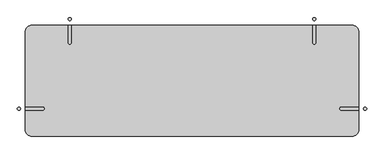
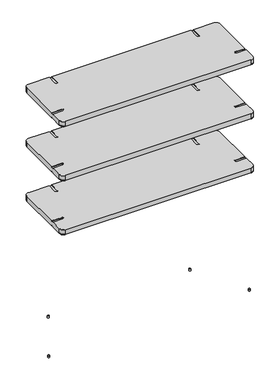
"""IFC4 building model written with IfcOpenShell, lengths in millimetres: furniture geometry, Shelving unit_Friendly : Shelving unit_Friendly."""

from ifc_helpers import new_model, si_unit, point, frame, frame_2d, origin, origin_with_axes, place, context, project, spatial, polyline, circle_curve, trimmed, segment, composite_curve, outline, extrude, source, transform, mapped, element, save
from ifc_brep_helpers import plane_surface, cylinder_surface, revolved_surface, advanced_brep


def furniture_c25ba4bb(model_context):
    return source(origin(), model_context, "Body", "SolidModel", [
        extrude(outline(composite_curve([segment(trimmed(circle_curve(frame_2d((-622.5, -330.0)), 5.5), [point((-628.0, -330.0))], [point((-617.0, -330.0))], False, "CARTESIAN"), True, "CONTINUOUS"), segment(trimmed(circle_curve(frame_2d((-622.5, -330.0)), 5.5), [point((-617.0, -330.0))], [point((-628.0, -330.0))], False, "CARTESIAN"), True, "CONTINUOUS")], self_intersect=False)), origin_with_axes(), (0.0, 0.0, 1.0), 10.0),
        extrude(outline(composite_curve([segment(trimmed(circle_curve(frame_2d((-440.0, -7.5)), 5.5), [point((-445.5, -7.5))], [point((-434.5, -7.5))], False, "CARTESIAN"), True, "CONTINUOUS"), segment(trimmed(circle_curve(frame_2d((-440.0, -7.5)), 5.5), [point((-434.5, -7.5))], [point((-445.5, -7.5))], False, "CARTESIAN"), True, "CONTINUOUS")], self_intersect=False)), origin_with_axes(), (0.0, 0.0, 1.0), 10.0),
        extrude(outline(composite_curve([segment(trimmed(circle_curve(frame_2d((440.0, -7.5)), 5.5), [point((434.5, -7.5))], [point((445.5, -7.5))], False, "CARTESIAN"), True, "CONTINUOUS"), segment(trimmed(circle_curve(frame_2d((440.0, -7.5)), 5.5), [point((445.5, -7.5))], [point((434.5, -7.5))], False, "CARTESIAN"), True, "CONTINUOUS")], self_intersect=False)), origin_with_axes(), (0.0, 0.0, 1.0), 10.0),
        extrude(outline(composite_curve([segment(trimmed(circle_curve(frame_2d((622.5, -330.0)), 5.5), [point((617.0, -330.0))], [point((628.0, -330.0))], False, "CARTESIAN"), True, "CONTINUOUS"), segment(trimmed(circle_curve(frame_2d((622.5, -330.0)), 5.5), [point((628.0, -330.0))], [point((617.0, -330.0))], False, "CARTESIAN"), True, "CONTINUOUS")], self_intersect=False)), origin_with_axes(), (0.0, 0.0, 1.0), 10.0),
        advanced_brep(
        [(-575.0, -430.0, 1557.0), (-600.0, -405.0, 1557.0), (-600.0, -337.5, 1557.0), (-537.5, -337.5, 1557.0), (-537.5, -322.5, 1557.0), (-600.0, -322.5, 1557.0), (-600.0, -55.0, 1557.0), (-575.0, -30.0, 1557.0), (-447.5, -30.0, 1557.0), (-447.5, -92.5, 1557.0), (-432.5, -92.5, 1557.0), (-432.5, -30.0, 1557.0), (432.5, -30.0, 1557.0), (432.5, -92.5, 1557.0), (447.5, -92.5, 1557.0), (447.5, -30.0, 1557.0), (575.0, -30.0, 1557.0), (600.0, -55.0, 1557.0), (600.0, -322.5, 1557.0), (537.5, -322.5, 1557.0), (537.5, -337.5, 1557.0), (600.0, -337.5, 1557.0), (600.0, -405.0, 1557.0), (575.0, -430.0, 1557.0), (575.0, -430.0, 1560.0), (575.0, -430.0, 1586.0), (575.0, -430.0, 1589.0), (-575.0, -430.0, 1589.0), (-575.0, -430.0, 1586.0), (-575.0, -430.0, 1560.0), (600.0, -405.0, 1560.0), (600.0, -55.0, 1560.0), (600.0, -55.0, 1586.0), (600.0, -55.0, 1589.0), (600.0, -322.5, 1589.0), (600.0, -322.5, 1586.0), (600.0, -337.5, 1586.0), (600.0, -337.5, 1589.0), (600.0, -405.0, 1589.0), (600.0, -405.0, 1586.0), (600.0, -337.5, 1560.0), (600.0, -322.5, 1560.0), (575.0, -30.0, 1560.0), (-575.0, -30.0, 1560.0), (-575.0, -30.0, 1586.0), (-575.0, -30.0, 1589.0), (-447.5, -30.0, 1589.0), (-447.5, -30.0, 1586.0), (-432.5, -30.0, 1586.0), (-432.5, -30.0, 1589.0), (432.5, -30.0, 1589.0), (432.5, -30.0, 1586.0), (447.5, -30.0, 1586.0), (447.5, -30.0, 1589.0), (575.0, -30.0, 1589.0), (575.0, -30.0, 1586.0), (447.5, -30.0, 1560.0), (432.5, -30.0, 1560.0), (-432.5, -30.0, 1560.0), (-447.5, -30.0, 1560.0), (-600.0, -55.0, 1560.0), (-600.0, -405.0, 1560.0), (-600.0, -405.0, 1586.0), (-600.0, -405.0, 1589.0), (-600.0, -337.5, 1589.0), (-600.0, -337.5, 1586.0), (-600.0, -322.5, 1586.0), (-600.0, -322.5, 1589.0), (-600.0, -55.0, 1589.0), (-600.0, -55.0, 1586.0), (-600.0, -322.5, 1560.0), (-600.0, -337.5, 1560.0), (-537.5, -322.5, 1560.0), (-537.5, -337.5, 1560.0), (537.5, -337.5, 1560.0), (537.5, -322.5, 1560.0), (447.5, -92.5, 1560.0), (432.5, -92.5, 1560.0), (-432.5, -92.5, 1560.0), (-447.5, -92.5, 1560.0), (537.5, -322.5, 1586.0), (537.5, -337.5, 1586.0), (-447.5, -92.5, 1586.0), (-432.5, -92.5, 1586.0), (432.5, -92.5, 1586.0), (447.5, -92.5, 1586.0), (-537.5, -337.5, 1586.0), (-537.5, -322.5, 1586.0), (537.5, -337.5, 1589.0), (537.5, -322.5, 1589.0), (447.5, -92.5, 1589.0), (432.5, -92.5, 1589.0), (-432.5, -92.5, 1589.0), (-447.5, -92.5, 1589.0), (-537.5, -322.5, 1589.0), (-537.5, -337.5, 1589.0)],
        [
            (0, 1, circle_curve(frame((-575.0, -405.0, 1557.0), z_axis=(0.0, 0.0, -1.0), x_axis=(1.0, 0.0, 0.0)), 25.0)),
            (1, 2),
            (2, 3),
            (3, 4, circle_curve(frame((-537.5, -330.0, 1557.0), z_axis=(0.0, 0.0, 1.0), x_axis=(1.0, 0.0, 0.0)), 7.5)),
            (4, 5),
            (5, 6),
            (6, 7, circle_curve(frame((-575.0, -55.0, 1557.0), z_axis=(0.0, 0.0, -1.0), x_axis=(1.0, 0.0, 0.0)), 25.0)),
            (7, 8),
            (8, 9),
            (9, 10, circle_curve(frame((-440.0, -92.5, 1557.0), z_axis=(0.0, 0.0, 1.0), x_axis=(1.0, 0.0, 0.0)), 7.5)),
            (10, 11),
            (11, 12),
            (12, 13),
            (13, 14, circle_curve(frame((440.0, -92.5, 1557.0), z_axis=(0.0, 0.0, 1.0), x_axis=(1.0, 0.0, 0.0)), 7.5)),
            (14, 15),
            (15, 16),
            (16, 17, circle_curve(frame((575.0, -55.0, 1557.0), z_axis=(0.0, 0.0, -1.0), x_axis=(1.0, 0.0, 0.0)), 25.0)),
            (17, 18),
            (18, 19),
            (19, 20, circle_curve(frame((537.5, -330.0, 1557.0), z_axis=(0.0, 0.0, 1.0), x_axis=(1.0, 0.0, 0.0)), 7.5)),
            (20, 21),
            (21, 22),
            (22, 23, circle_curve(frame((575.0, -405.0, 1557.0), z_axis=(0.0, 0.0, -1.0), x_axis=(1.0, 0.0, 0.0)), 25.0)),
            (23, 0),
            (23, 24),
            (24, 25),
            (25, 26),
            (26, 27),
            (27, 28),
            (28, 29),
            (29, 0),
            (22, 30),
            (30, 24, circle_curve(frame((575.0, -405.0, 1560.0), z_axis=(0.0, 0.0, -1.0), x_axis=(1.0, 0.0, 0.0)), 25.0)),
            (17, 31),
            (31, 32),
            (32, 33),
            (33, 34),
            (34, 35),
            (35, 36),
            (36, 37),
            (37, 38),
            (38, 39),
            (39, 30),
            (21, 40),
            (40, 41),
            (41, 18),
            (16, 42),
            (42, 31, circle_curve(frame((575.0, -55.0, 1560.0), z_axis=(0.0, 0.0, -1.0), x_axis=(1.0, 0.0, 0.0)), 25.0)),
            (7, 43),
            (43, 44),
            (44, 45),
            (45, 46),
            (46, 47),
            (47, 48),
            (48, 49),
            (49, 50),
            (50, 51),
            (51, 52),
            (52, 53),
            (53, 54),
            (54, 55),
            (55, 42),
            (15, 56),
            (56, 57),
            (57, 12),
            (11, 58),
            (58, 59),
            (59, 8),
            (6, 60),
            (60, 43, circle_curve(frame((-575.0, -55.0, 1560.0), z_axis=(0.0, 0.0, -1.0), x_axis=(1.0, 0.0, 0.0)), 25.0)),
            (1, 61),
            (61, 62),
            (62, 63),
            (63, 64),
            (64, 65),
            (65, 66),
            (66, 67),
            (67, 68),
            (68, 69),
            (69, 60),
            (5, 70),
            (70, 71),
            (71, 2),
            (29, 61, circle_curve(frame((-575.0, -405.0, 1560.0), z_axis=(0.0, 0.0, -1.0), x_axis=(1.0, 0.0, 0.0)), 25.0)),
            (4, 72),
            (72, 70),
            (71, 73),
            (73, 3),
            (73, 72, circle_curve(frame((-537.5, -330.0, 1560.0), z_axis=(0.0, 0.0, 1.0), x_axis=(1.0, 0.0, 0.0)), 7.5)),
            (20, 74),
            (74, 40),
            (19, 75),
            (75, 74, circle_curve(frame((537.5, -330.0, 1560.0), z_axis=(0.0, 0.0, 1.0), x_axis=(1.0, 0.0, 0.0)), 7.5)),
            (41, 75),
            (14, 76),
            (76, 56),
            (13, 77),
            (77, 76, circle_curve(frame((440.0, -92.5, 1560.0), z_axis=(0.0, 0.0, 1.0), x_axis=(1.0, 0.0, 0.0)), 7.5)),
            (57, 77),
            (10, 78),
            (78, 58),
            (9, 79),
            (79, 78, circle_curve(frame((-440.0, -92.5, 1560.0), z_axis=(0.0, 0.0, 1.0), x_axis=(1.0, 0.0, 0.0)), 7.5)),
            (59, 79),
            (35, 80),
            (80, 81, circle_curve(frame((537.5, -330.0, 1586.0), z_axis=(0.0, 0.0, 1.0), x_axis=(1.0, 0.0, 0.0)), 7.5)),
            (81, 36),
            (47, 82),
            (82, 83, circle_curve(frame((-440.0, -92.5, 1586.0), z_axis=(0.0, 0.0, 1.0), x_axis=(1.0, 0.0, 0.0)), 7.5)),
            (83, 48),
            (51, 84),
            (84, 85, circle_curve(frame((440.0, -92.5, 1586.0), z_axis=(0.0, 0.0, 1.0), x_axis=(1.0, 0.0, 0.0)), 7.5)),
            (85, 52),
            (65, 86),
            (86, 87, circle_curve(frame((-537.5, -330.0, 1586.0), z_axis=(0.0, 0.0, 1.0), x_axis=(1.0, 0.0, 0.0)), 7.5)),
            (87, 66),
            (28, 62, circle_curve(frame((-575.0, -405.0, 1586.0), z_axis=(0.0, 0.0, -1.0), x_axis=(1.0, 0.0, 0.0)), 25.0)),
            (39, 25, circle_curve(frame((575.0, -405.0, 1586.0), z_axis=(0.0, 0.0, -1.0), x_axis=(1.0, 0.0, 0.0)), 25.0)),
            (55, 32, circle_curve(frame((575.0, -55.0, 1586.0), z_axis=(0.0, 0.0, -1.0), x_axis=(1.0, 0.0, 0.0)), 25.0)),
            (69, 44, circle_curve(frame((-575.0, -55.0, 1586.0), z_axis=(0.0, 0.0, -1.0), x_axis=(1.0, 0.0, 0.0)), 25.0)),
            (26, 38, circle_curve(frame((575.0, -405.0, 1589.0), z_axis=(0.0, 0.0, 1.0), x_axis=(1.0, 0.0, 0.0)), 25.0)),
            (37, 88),
            (88, 89, circle_curve(frame((537.5, -330.0, 1589.0), z_axis=(0.0, 0.0, -1.0), x_axis=(1.0, 0.0, 0.0)), 7.5)),
            (89, 34),
            (33, 54, circle_curve(frame((575.0, -55.0, 1589.0), z_axis=(0.0, 0.0, 1.0), x_axis=(1.0, 0.0, 0.0)), 25.0)),
            (53, 90),
            (90, 91, circle_curve(frame((440.0, -92.5, 1589.0), z_axis=(0.0, 0.0, -1.0), x_axis=(1.0, 0.0, 0.0)), 7.5)),
            (91, 50),
            (49, 92),
            (92, 93, circle_curve(frame((-440.0, -92.5, 1589.0), z_axis=(0.0, 0.0, -1.0), x_axis=(1.0, 0.0, 0.0)), 7.5)),
            (93, 46),
            (45, 68, circle_curve(frame((-575.0, -55.0, 1589.0), z_axis=(0.0, 0.0, 1.0), x_axis=(1.0, 0.0, 0.0)), 25.0)),
            (67, 94),
            (94, 95, circle_curve(frame((-537.5, -330.0, 1589.0), z_axis=(0.0, 0.0, -1.0), x_axis=(1.0, 0.0, 0.0)), 7.5)),
            (95, 64),
            (63, 27, circle_curve(frame((-575.0, -405.0, 1589.0), z_axis=(0.0, 0.0, 1.0), x_axis=(1.0, 0.0, 0.0)), 25.0)),
            (87, 94),
            (95, 86),
            (81, 88),
            (80, 89),
            (85, 90),
            (84, 91),
            (83, 92),
            (82, 93),
        ],
        [
            plane_surface(frame((1453.4151526, -430.0, 1557.0), z_axis=(0.0, 0.0, -1.0), x_axis=(-1.0, 0.0, 0.0))),
            plane_surface(frame((-575.0, -430.0, 1560.0), z_axis=(0.0, -1.0, 0.0), x_axis=(0.0, 0.0, -1.0))),
            cylinder_surface(frame((575.0, -405.0, 1557.0), z_axis=(0.0, 0.0, 1.0), x_axis=(1.0, 0.0, 0.0)), 25.0),
            plane_surface(frame((600.0, -322.5, 1560.0), z_axis=(1.0, 0.0, 0.0), x_axis=(0.0, 0.0, -1.0))),
            cylinder_surface(frame((575.0, -55.0, 1557.0), z_axis=(0.0, 0.0, 1.0), x_axis=(1.0, 0.0, 0.0)), 25.0),
            plane_surface(frame((575.0, -30.0, 1560.0), z_axis=(0.0, 1.0, 0.0), x_axis=(0.0, 0.0, -1.0))),
            cylinder_surface(frame((-575.0, -55.0, 1557.0), z_axis=(0.0, 0.0, 1.0), x_axis=(1.0, 0.0, 0.0)), 25.0),
            plane_surface(frame((-600.0, -55.0, 1560.0), z_axis=(-1.0, 0.0, 0.0), x_axis=(0.0, 0.0, -1.0))),
            cylinder_surface(frame((-575.0, -405.0, 1557.0), z_axis=(0.0, 0.0, 1.0), x_axis=(1.0, 0.0, 0.0)), 25.0),
            plane_surface(frame((-600.0, -322.5, 1560.0), z_axis=(0.0, -1.0, 0.0), x_axis=(0.0, 0.0, -1.0))),
            plane_surface(frame((-537.5, -337.5, 1560.0), z_axis=(0.0, 1.0, 0.0), x_axis=(0.0, 0.0, -1.0))),
            revolved_surface(polyline([(-530.0, -330.0, 1557.0), (-530.0, -330.0, 1560.0)]), (-537.5, -330.0, 1557.0), (0.0, 0.0, -1.0)),
            plane_surface(frame((600.0, -337.5, 1560.0), z_axis=(0.0, 1.0, 0.0), x_axis=(0.0, 0.0, -1.0))),
            revolved_surface(polyline([(545.0, -330.0, 1557.0), (545.0, -330.0, 1560.0)]), (537.5, -330.0, 1557.0), (0.0, 0.0, -1.0)),
            plane_surface(frame((537.5, -322.5, 1560.0), z_axis=(0.0, -1.0, 0.0), x_axis=(0.0, 0.0, -1.0))),
            plane_surface(frame((447.5, -30.0, 1560.0), z_axis=(-1.0, 0.0, 0.0), x_axis=(0.0, 0.0, -1.0))),
            revolved_surface(polyline([(447.5, -92.5, 1557.0), (447.5, -92.5, 1560.0)]), (440.0, -92.5, 1557.0), (0.0, 0.0, -1.0)),
            plane_surface(frame((432.5, -92.5, 1560.0), z_axis=(1.0, 0.0, 0.0), x_axis=(0.0, 0.0, -1.0))),
            plane_surface(frame((-432.5, -30.0, 1560.0), z_axis=(-1.0, 0.0, 0.0), x_axis=(0.0, 0.0, -1.0))),
            revolved_surface(polyline([(-432.5, -92.5, 1557.0), (-432.5, -92.5, 1560.0)]), (-440.0, -92.5, 1557.0), (0.0, 0.0, -1.0)),
            plane_surface(frame((-447.5, -92.5, 1560.0), z_axis=(1.0, 0.0, 0.0), x_axis=(0.0, 0.0, -1.0))),
            plane_surface(frame((-550.0, -405.0, 1586.0), z_axis=(0.0, 0.0, 1.0), x_axis=(0.0, 1.0, 0.0))),
            plane_surface(frame((-550.0, -405.0, 1560.0), z_axis=(0.0, 0.0, -1.0), x_axis=(0.0, -1.0, 0.0))),
            cylinder_surface(frame((-575.0, -405.0, 1560.0), z_axis=(0.0, 0.0, 1.0), x_axis=(1.0, 0.0, 0.0)), 25.0),
            cylinder_surface(frame((575.0, -405.0, 1560.0), z_axis=(0.0, 0.0, 1.0), x_axis=(1.0, 0.0, 0.0)), 25.0),
            cylinder_surface(frame((575.0, -55.0, 1560.0), z_axis=(0.0, 0.0, 1.0), x_axis=(1.0, 0.0, 0.0)), 25.0),
            cylinder_surface(frame((-575.0, -55.0, 1560.0), z_axis=(0.0, 0.0, 1.0), x_axis=(1.0, 0.0, 0.0)), 25.0),
            plane_surface(frame((1453.4151526, -430.0, 1589.0), z_axis=(0.0, 0.0, 1.0), x_axis=(1.0, 0.0, 0.0))),
            cylinder_surface(frame((575.0, -405.0, 1586.0), z_axis=(0.0, 0.0, 1.0), x_axis=(1.0, 0.0, 0.0)), 25.0),
            cylinder_surface(frame((575.0, -55.0, 1586.0), z_axis=(0.0, 0.0, 1.0), x_axis=(1.0, 0.0, 0.0)), 25.0),
            cylinder_surface(frame((-575.0, -55.0, 1586.0), z_axis=(0.0, 0.0, 1.0), x_axis=(1.0, 0.0, 0.0)), 25.0),
            cylinder_surface(frame((-575.0, -405.0, 1586.0), z_axis=(0.0, 0.0, 1.0), x_axis=(1.0, 0.0, 0.0)), 25.0),
            plane_surface(frame((-600.0, -322.5, 1589.0), z_axis=(0.0, -1.0, 0.0), x_axis=(0.0, 0.0, -1.0))),
            plane_surface(frame((-537.5, -337.5, 1589.0), z_axis=(0.0, 1.0, 0.0), x_axis=(0.0, 0.0, -1.0))),
            revolved_surface(polyline([(-530.0, -330.0, 1586.0), (-530.0, -330.0, 1589.0)]), (-537.5, -330.0, 1586.0), (0.0, 0.0, -1.0)),
            plane_surface(frame((600.0, -337.5, 1589.0), z_axis=(0.0, 1.0, 0.0), x_axis=(0.0, 0.0, -1.0))),
            revolved_surface(polyline([(545.0, -330.0, 1586.0), (545.0, -330.0, 1589.0)]), (537.5, -330.0, 1586.0), (0.0, 0.0, -1.0)),
            plane_surface(frame((537.5, -322.5, 1589.0), z_axis=(0.0, -1.0, 0.0), x_axis=(0.0, 0.0, -1.0))),
            plane_surface(frame((447.5, -30.0, 1589.0), z_axis=(-1.0, 0.0, 0.0), x_axis=(0.0, 0.0, -1.0))),
            revolved_surface(polyline([(447.5, -92.5, 1586.0), (447.5, -92.5, 1589.0)]), (440.0, -92.5, 1586.0), (0.0, 0.0, -1.0)),
            plane_surface(frame((432.5, -92.5, 1589.0), z_axis=(1.0, 0.0, 0.0), x_axis=(0.0, 0.0, -1.0))),
            plane_surface(frame((-432.5, -30.0, 1589.0), z_axis=(-1.0, 0.0, 0.0), x_axis=(0.0, 0.0, -1.0))),
            revolved_surface(polyline([(-432.5, -92.5, 1586.0), (-432.5, -92.5, 1589.0)]), (-440.0, -92.5, 1586.0), (0.0, 0.0, -1.0)),
            plane_surface(frame((-447.5, -92.5, 1589.0), z_axis=(1.0, 0.0, 0.0), x_axis=(0.0, 0.0, -1.0))),
        ],
        [
            (0, [[1, 2, 3, 4, 5, 6, 7, 8, 9, 10, 11, 12, 13, 14, 15, 16, 17, 18, 19, 20, 21, 22, 23, 24]]),
            (1, [[-24, 25, 26, 27, 28, 29, 30, 31]]),
            (2, [[-23, 32, 33, -25]]),
            (3, [[-18, 34, 35, 36, 37, 38, 39, 40, 41, 42, 43, -32, -22, 44, 45, 46]]),
            (4, [[-17, 47, 48, -34]]),
            (5, [[-8, 49, 50, 51, 52, 53, 54, 55, 56, 57, 58, 59, 60, 61, 62, -47, -16, 63, 64, 65, -12, 66, 67, 68]]),
            (6, [[-7, 69, 70, -49]]),
            (7, [[-2, 71, 72, 73, 74, 75, 76, 77, 78, 79, 80, -69, -6, 81, 82, 83]]),
            (8, [[-1, -31, 84, -71]]),
            (9, [[-5, 85, 86, -81]]),
            (10, [[-3, -83, 87, 88]]),
            (11, [[-4, -88, 89, -85]]),
            (12, [[-21, 90, 91, -44]]),
            (13, [[-20, 92, 93, -90]]),
            (14, [[-19, -46, 94, -92]]),
            (15, [[-15, 95, 96, -63]]),
            (16, [[-14, 97, 98, -95]]),
            (17, [[-13, -65, 99, -97]]),
            (18, [[-11, 100, 101, -66]]),
            (19, [[-10, 102, 103, -100]]),
            (20, [[-9, -68, 104, -102]]),
            (21, [[-39, 105, 106, 107]]),
            (21, [[-54, 108, 109, 110]]),
            (21, [[-58, 111, 112, 113]]),
            (21, [[-76, 114, 115, 116]]),
            (22, [[-45, -91, -93, -94]]),
            (22, [[-64, -96, -98, -99]]),
            (22, [[-67, -101, -103, -104]]),
            (22, [[-82, -86, -89, -87]]),
            (23, [[-72, -84, -30, 117]]),
            (24, [[-26, -33, -43, 118]]),
            (25, [[-35, -48, -62, 119]]),
            (26, [[-50, -70, -80, 120]]),
            (27, [[-28, 121, -41, 122, 123, 124, -37, 125, -60, 126, 127, 128, -56, 129, 130, 131, -52, 132, -78, 133, 134, 135, -74, 136]]),
            (28, [[-121, -27, -118, -42]]),
            (29, [[-125, -36, -119, -61]]),
            (30, [[-132, -51, -120, -79]]),
            (31, [[-136, -73, -117, -29]]),
            (32, [[-133, -77, -116, 137]]),
            (33, [[-135, 138, -114, -75]]),
            (34, [[-134, -137, -115, -138]]),
            (35, [[-122, -40, -107, 139]]),
            (36, [[-123, -139, -106, 140]]),
            (37, [[-124, -140, -105, -38]]),
            (38, [[-126, -59, -113, 141]]),
            (39, [[-127, -141, -112, 142]]),
            (40, [[-128, -142, -111, -57]]),
            (41, [[-129, -55, -110, 143]]),
            (42, [[-130, -143, -109, 144]]),
            (43, [[-131, -144, -108, -53]]),
        ],
    ),
        advanced_brep(
        [(-575.0, -430.0, 1202.25), (-600.0, -405.0, 1202.25), (-600.0, -337.5, 1202.25), (-537.5, -337.5, 1202.25), (-537.5, -322.5, 1202.25), (-600.0, -322.5, 1202.25), (-600.0, -55.0, 1202.25), (-575.0, -30.0, 1202.25), (-447.5, -30.0, 1202.25), (-447.5, -92.5, 1202.25), (-432.5, -92.5, 1202.25), (-432.5, -30.0, 1202.25), (432.5, -30.0, 1202.25), (432.5, -92.5, 1202.25), (447.5, -92.5, 1202.25), (447.5, -30.0, 1202.25), (575.0, -30.0, 1202.25), (600.0, -55.0, 1202.25), (600.0, -322.5, 1202.25), (537.5, -322.5, 1202.25), (537.5, -337.5, 1202.25), (600.0, -337.5, 1202.25), (600.0, -405.0, 1202.25), (575.0, -430.0, 1202.25), (575.0, -430.0, 1205.25), (575.0, -430.0, 1231.25), (575.0, -430.0, 1234.25), (-575.0, -430.0, 1234.25), (-575.0, -430.0, 1231.25), (-575.0, -430.0, 1205.25), (600.0, -405.0, 1205.25), (600.0, -55.0, 1205.25), (600.0, -55.0, 1231.25), (600.0, -55.0, 1234.25), (600.0, -322.5, 1234.25), (600.0, -322.5, 1231.25), (600.0, -337.5, 1231.25), (600.0, -337.5, 1234.25), (600.0, -405.0, 1234.25), (600.0, -405.0, 1231.25), (600.0, -337.5, 1205.25), (600.0, -322.5, 1205.25), (575.0, -30.0, 1205.25), (-575.0, -30.0, 1205.25), (-575.0, -30.0, 1231.25), (-575.0, -30.0, 1234.25), (-447.5, -30.0, 1234.25), (-447.5, -30.0, 1231.25), (-432.5, -30.0, 1231.25), (-432.5, -30.0, 1234.25), (432.5, -30.0, 1234.25), (432.5, -30.0, 1231.25), (447.5, -30.0, 1231.25), (447.5, -30.0, 1234.25), (575.0, -30.0, 1234.25), (575.0, -30.0, 1231.25), (447.5, -30.0, 1205.25), (432.5, -30.0, 1205.25), (-432.5, -30.0, 1205.25), (-447.5, -30.0, 1205.25), (-600.0, -55.0, 1205.25), (-600.0, -405.0, 1205.25), (-600.0, -405.0, 1231.25), (-600.0, -405.0, 1234.25), (-600.0, -337.5, 1234.25), (-600.0, -337.5, 1231.25), (-600.0, -322.5, 1231.25), (-600.0, -322.5, 1234.25), (-600.0, -55.0, 1234.25), (-600.0, -55.0, 1231.25), (-600.0, -322.5, 1205.25), (-600.0, -337.5, 1205.25), (-537.5, -322.5, 1205.25), (-537.5, -337.5, 1205.25), (537.5, -337.5, 1205.25), (537.5, -322.5, 1205.25), (447.5, -92.5, 1205.25), (432.5, -92.5, 1205.25), (-432.5, -92.5, 1205.25), (-447.5, -92.5, 1205.25), (537.5, -322.5, 1231.25), (537.5, -337.5, 1231.25), (-447.5, -92.5, 1231.25), (-432.5, -92.5, 1231.25), (432.5, -92.5, 1231.25), (447.5, -92.5, 1231.25), (-537.5, -337.5, 1231.25), (-537.5, -322.5, 1231.25), (537.5, -337.5, 1234.25), (537.5, -322.5, 1234.25), (447.5, -92.5, 1234.25), (432.5, -92.5, 1234.25), (-432.5, -92.5, 1234.25), (-447.5, -92.5, 1234.25), (-537.5, -322.5, 1234.25), (-537.5, -337.5, 1234.25)],
        [
            (0, 1, circle_curve(frame((-575.0, -405.0, 1202.25), z_axis=(0.0, 0.0, -1.0), x_axis=(1.0, 0.0, 0.0)), 25.0)),
            (1, 2),
            (2, 3),
            (3, 4, circle_curve(frame((-537.5, -330.0, 1202.25), z_axis=(0.0, 0.0, 1.0), x_axis=(1.0, 0.0, 0.0)), 7.5)),
            (4, 5),
            (5, 6),
            (6, 7, circle_curve(frame((-575.0, -55.0, 1202.25), z_axis=(0.0, 0.0, -1.0), x_axis=(1.0, 0.0, 0.0)), 25.0)),
            (7, 8),
            (8, 9),
            (9, 10, circle_curve(frame((-440.0, -92.5, 1202.25), z_axis=(0.0, 0.0, 1.0), x_axis=(1.0, 0.0, 0.0)), 7.5)),
            (10, 11),
            (11, 12),
            (12, 13),
            (13, 14, circle_curve(frame((440.0, -92.5, 1202.25), z_axis=(0.0, 0.0, 1.0), x_axis=(1.0, 0.0, 0.0)), 7.5)),
            (14, 15),
            (15, 16),
            (16, 17, circle_curve(frame((575.0, -55.0, 1202.25), z_axis=(0.0, 0.0, -1.0), x_axis=(1.0, 0.0, 0.0)), 25.0)),
            (17, 18),
            (18, 19),
            (19, 20, circle_curve(frame((537.5, -330.0, 1202.25), z_axis=(0.0, 0.0, 1.0), x_axis=(1.0, 0.0, 0.0)), 7.5)),
            (20, 21),
            (21, 22),
            (22, 23, circle_curve(frame((575.0, -405.0, 1202.25), z_axis=(0.0, 0.0, -1.0), x_axis=(1.0, 0.0, 0.0)), 25.0)),
            (23, 0),
            (23, 24),
            (24, 25),
            (25, 26),
            (26, 27),
            (27, 28),
            (28, 29),
            (29, 0),
            (22, 30),
            (30, 24, circle_curve(frame((575.0, -405.0, 1205.25), z_axis=(0.0, 0.0, -1.0), x_axis=(1.0, 0.0, 0.0)), 25.0)),
            (17, 31),
            (31, 32),
            (32, 33),
            (33, 34),
            (34, 35),
            (35, 36),
            (36, 37),
            (37, 38),
            (38, 39),
            (39, 30),
            (21, 40),
            (40, 41),
            (41, 18),
            (16, 42),
            (42, 31, circle_curve(frame((575.0, -55.0, 1205.25), z_axis=(0.0, 0.0, -1.0), x_axis=(1.0, 0.0, 0.0)), 25.0)),
            (7, 43),
            (43, 44),
            (44, 45),
            (45, 46),
            (46, 47),
            (47, 48),
            (48, 49),
            (49, 50),
            (50, 51),
            (51, 52),
            (52, 53),
            (53, 54),
            (54, 55),
            (55, 42),
            (15, 56),
            (56, 57),
            (57, 12),
            (11, 58),
            (58, 59),
            (59, 8),
            (6, 60),
            (60, 43, circle_curve(frame((-575.0, -55.0, 1205.25), z_axis=(0.0, 0.0, -1.0), x_axis=(1.0, 0.0, 0.0)), 25.0)),
            (1, 61),
            (61, 62),
            (62, 63),
            (63, 64),
            (64, 65),
            (65, 66),
            (66, 67),
            (67, 68),
            (68, 69),
            (69, 60),
            (5, 70),
            (70, 71),
            (71, 2),
            (29, 61, circle_curve(frame((-575.0, -405.0, 1205.25), z_axis=(0.0, 0.0, -1.0), x_axis=(1.0, 0.0, 0.0)), 25.0)),
            (4, 72),
            (72, 70),
            (71, 73),
            (73, 3),
            (73, 72, circle_curve(frame((-537.5, -330.0, 1205.25), z_axis=(0.0, 0.0, 1.0), x_axis=(1.0, 0.0, 0.0)), 7.5)),
            (20, 74),
            (74, 40),
            (19, 75),
            (75, 74, circle_curve(frame((537.5, -330.0, 1205.25), z_axis=(0.0, 0.0, 1.0), x_axis=(1.0, 0.0, 0.0)), 7.5)),
            (41, 75),
            (14, 76),
            (76, 56),
            (13, 77),
            (77, 76, circle_curve(frame((440.0, -92.5, 1205.25), z_axis=(0.0, 0.0, 1.0), x_axis=(1.0, 0.0, 0.0)), 7.5)),
            (57, 77),
            (10, 78),
            (78, 58),
            (9, 79),
            (79, 78, circle_curve(frame((-440.0, -92.5, 1205.25), z_axis=(0.0, 0.0, 1.0), x_axis=(1.0, 0.0, 0.0)), 7.5)),
            (59, 79),
            (35, 80),
            (80, 81, circle_curve(frame((537.5, -330.0, 1231.25), z_axis=(0.0, 0.0, 1.0), x_axis=(1.0, 0.0, 0.0)), 7.5)),
            (81, 36),
            (47, 82),
            (82, 83, circle_curve(frame((-440.0, -92.5, 1231.25), z_axis=(0.0, 0.0, 1.0), x_axis=(1.0, 0.0, 0.0)), 7.5)),
            (83, 48),
            (51, 84),
            (84, 85, circle_curve(frame((440.0, -92.5, 1231.25), z_axis=(0.0, 0.0, 1.0), x_axis=(1.0, 0.0, 0.0)), 7.5)),
            (85, 52),
            (65, 86),
            (86, 87, circle_curve(frame((-537.5, -330.0, 1231.25), z_axis=(0.0, 0.0, 1.0), x_axis=(1.0, 0.0, 0.0)), 7.5)),
            (87, 66),
            (28, 62, circle_curve(frame((-575.0, -405.0, 1231.25), z_axis=(0.0, 0.0, -1.0), x_axis=(1.0, 0.0, 0.0)), 25.0)),
            (39, 25, circle_curve(frame((575.0, -405.0, 1231.25), z_axis=(0.0, 0.0, -1.0), x_axis=(1.0, 0.0, 0.0)), 25.0)),
            (55, 32, circle_curve(frame((575.0, -55.0, 1231.25), z_axis=(0.0, 0.0, -1.0), x_axis=(1.0, 0.0, 0.0)), 25.0)),
            (69, 44, circle_curve(frame((-575.0, -55.0, 1231.25), z_axis=(0.0, 0.0, -1.0), x_axis=(1.0, 0.0, 0.0)), 25.0)),
            (26, 38, circle_curve(frame((575.0, -405.0, 1234.25), z_axis=(0.0, 0.0, 1.0), x_axis=(1.0, 0.0, 0.0)), 25.0)),
            (37, 88),
            (88, 89, circle_curve(frame((537.5, -330.0, 1234.25), z_axis=(0.0, 0.0, -1.0), x_axis=(1.0, 0.0, 0.0)), 7.5)),
            (89, 34),
            (33, 54, circle_curve(frame((575.0, -55.0, 1234.25), z_axis=(0.0, 0.0, 1.0), x_axis=(1.0, 0.0, 0.0)), 25.0)),
            (53, 90),
            (90, 91, circle_curve(frame((440.0, -92.5, 1234.25), z_axis=(0.0, 0.0, -1.0), x_axis=(1.0, 0.0, 0.0)), 7.5)),
            (91, 50),
            (49, 92),
            (92, 93, circle_curve(frame((-440.0, -92.5, 1234.25), z_axis=(0.0, 0.0, -1.0), x_axis=(1.0, 0.0, 0.0)), 7.5)),
            (93, 46),
            (45, 68, circle_curve(frame((-575.0, -55.0, 1234.25), z_axis=(0.0, 0.0, 1.0), x_axis=(1.0, 0.0, 0.0)), 25.0)),
            (67, 94),
            (94, 95, circle_curve(frame((-537.5, -330.0, 1234.25), z_axis=(0.0, 0.0, -1.0), x_axis=(1.0, 0.0, 0.0)), 7.5)),
            (95, 64),
            (63, 27, circle_curve(frame((-575.0, -405.0, 1234.25), z_axis=(0.0, 0.0, 1.0), x_axis=(1.0, 0.0, 0.0)), 25.0)),
            (87, 94),
            (95, 86),
            (81, 88),
            (80, 89),
            (85, 90),
            (84, 91),
            (83, 92),
            (82, 93),
        ],
        [
            plane_surface(frame((1453.4151526, -430.0, 1202.25), z_axis=(0.0, 0.0, -1.0), x_axis=(-1.0, 0.0, 0.0))),
            plane_surface(frame((-575.0, -430.0, 1205.25), z_axis=(0.0, -1.0, 0.0), x_axis=(0.0, 0.0, -1.0))),
            cylinder_surface(frame((575.0, -405.0, 1202.25), z_axis=(0.0, 0.0, 1.0), x_axis=(1.0, 0.0, 0.0)), 25.0),
            plane_surface(frame((600.0, -322.5, 1205.25), z_axis=(1.0, 0.0, 0.0), x_axis=(0.0, 0.0, -1.0))),
            cylinder_surface(frame((575.0, -55.0, 1202.25), z_axis=(0.0, 0.0, 1.0), x_axis=(1.0, 0.0, 0.0)), 25.0),
            plane_surface(frame((575.0, -30.0, 1205.25), z_axis=(0.0, 1.0, 0.0), x_axis=(0.0, 0.0, -1.0))),
            cylinder_surface(frame((-575.0, -55.0, 1202.25), z_axis=(0.0, 0.0, 1.0), x_axis=(1.0, 0.0, 0.0)), 25.0),
            plane_surface(frame((-600.0, -55.0, 1205.25), z_axis=(-1.0, 0.0, 0.0), x_axis=(0.0, 0.0, -1.0))),
            cylinder_surface(frame((-575.0, -405.0, 1202.25), z_axis=(0.0, 0.0, 1.0), x_axis=(1.0, 0.0, 0.0)), 25.0),
            plane_surface(frame((-600.0, -322.5, 1205.25), z_axis=(0.0, -1.0, 0.0), x_axis=(0.0, 0.0, -1.0))),
            plane_surface(frame((-537.5, -337.5, 1205.25), z_axis=(0.0, 1.0, 0.0), x_axis=(0.0, 0.0, -1.0))),
            revolved_surface(polyline([(-530.0, -330.0, 1202.25), (-530.0, -330.0, 1205.25)]), (-537.5, -330.0, 1202.25), (0.0, 0.0, -1.0)),
            plane_surface(frame((600.0, -337.5, 1205.25), z_axis=(0.0, 1.0, 0.0), x_axis=(0.0, 0.0, -1.0))),
            revolved_surface(polyline([(545.0, -330.0, 1202.25), (545.0, -330.0, 1205.25)]), (537.5, -330.0, 1202.25), (0.0, 0.0, -1.0)),
            plane_surface(frame((537.5, -322.5, 1205.25), z_axis=(0.0, -1.0, 0.0), x_axis=(0.0, 0.0, -1.0))),
            plane_surface(frame((447.5, -30.0, 1205.25), z_axis=(-1.0, 0.0, 0.0), x_axis=(0.0, 0.0, -1.0))),
            revolved_surface(polyline([(447.5, -92.5, 1202.25), (447.5, -92.5, 1205.25)]), (440.0, -92.5, 1202.25), (0.0, 0.0, -1.0)),
            plane_surface(frame((432.5, -92.5, 1205.25), z_axis=(1.0, 0.0, 0.0), x_axis=(0.0, 0.0, -1.0))),
            plane_surface(frame((-432.5, -30.0, 1205.25), z_axis=(-1.0, 0.0, 0.0), x_axis=(0.0, 0.0, -1.0))),
            revolved_surface(polyline([(-432.5, -92.5, 1202.25), (-432.5, -92.5, 1205.25)]), (-440.0, -92.5, 1202.25), (0.0, 0.0, -1.0)),
            plane_surface(frame((-447.5, -92.5, 1205.25), z_axis=(1.0, 0.0, 0.0), x_axis=(0.0, 0.0, -1.0))),
            plane_surface(frame((-550.0, -405.0, 1231.25), z_axis=(0.0, 0.0, 1.0), x_axis=(0.0, 1.0, 0.0))),
            plane_surface(frame((-550.0, -405.0, 1205.25), z_axis=(0.0, 0.0, -1.0), x_axis=(0.0, -1.0, 0.0))),
            cylinder_surface(frame((-575.0, -405.0, 1205.25), z_axis=(0.0, 0.0, 1.0), x_axis=(1.0, 0.0, 0.0)), 25.0),
            cylinder_surface(frame((575.0, -405.0, 1205.25), z_axis=(0.0, 0.0, 1.0), x_axis=(1.0, 0.0, 0.0)), 25.0),
            cylinder_surface(frame((575.0, -55.0, 1205.25), z_axis=(0.0, 0.0, 1.0), x_axis=(1.0, 0.0, 0.0)), 25.0),
            cylinder_surface(frame((-575.0, -55.0, 1205.25), z_axis=(0.0, 0.0, 1.0), x_axis=(1.0, 0.0, 0.0)), 25.0),
            plane_surface(frame((1453.4151526, -430.0, 1234.25), z_axis=(0.0, 0.0, 1.0), x_axis=(1.0, 0.0, 0.0))),
            cylinder_surface(frame((575.0, -405.0, 1231.25), z_axis=(0.0, 0.0, 1.0), x_axis=(1.0, 0.0, 0.0)), 25.0),
            cylinder_surface(frame((575.0, -55.0, 1231.25), z_axis=(0.0, 0.0, 1.0), x_axis=(1.0, 0.0, 0.0)), 25.0),
            cylinder_surface(frame((-575.0, -55.0, 1231.25), z_axis=(0.0, 0.0, 1.0), x_axis=(1.0, 0.0, 0.0)), 25.0),
            cylinder_surface(frame((-575.0, -405.0, 1231.25), z_axis=(0.0, 0.0, 1.0), x_axis=(1.0, 0.0, 0.0)), 25.0),
            plane_surface(frame((-600.0, -322.5, 1234.25), z_axis=(0.0, -1.0, 0.0), x_axis=(0.0, 0.0, -1.0))),
            plane_surface(frame((-537.5, -337.5, 1234.25), z_axis=(0.0, 1.0, 0.0), x_axis=(0.0, 0.0, -1.0))),
            revolved_surface(polyline([(-530.0, -330.0, 1231.25), (-530.0, -330.0, 1234.25)]), (-537.5, -330.0, 1231.25), (0.0, 0.0, -1.0)),
            plane_surface(frame((600.0, -337.5, 1234.25), z_axis=(0.0, 1.0, 0.0), x_axis=(0.0, 0.0, -1.0))),
            revolved_surface(polyline([(545.0, -330.0, 1231.25), (545.0, -330.0, 1234.25)]), (537.5, -330.0, 1231.25), (0.0, 0.0, -1.0)),
            plane_surface(frame((537.5, -322.5, 1234.25), z_axis=(0.0, -1.0, 0.0), x_axis=(0.0, 0.0, -1.0))),
            plane_surface(frame((447.5, -30.0, 1234.25), z_axis=(-1.0, 0.0, 0.0), x_axis=(0.0, 0.0, -1.0))),
            revolved_surface(polyline([(447.5, -92.5, 1231.25), (447.5, -92.5, 1234.25)]), (440.0, -92.5, 1231.25), (0.0, 0.0, -1.0)),
            plane_surface(frame((432.5, -92.5, 1234.25), z_axis=(1.0, 0.0, 0.0), x_axis=(0.0, 0.0, -1.0))),
            plane_surface(frame((-432.5, -30.0, 1234.25), z_axis=(-1.0, 0.0, 0.0), x_axis=(0.0, 0.0, -1.0))),
            revolved_surface(polyline([(-432.5, -92.5, 1231.25), (-432.5, -92.5, 1234.25)]), (-440.0, -92.5, 1231.25), (0.0, 0.0, -1.0)),
            plane_surface(frame((-447.5, -92.5, 1234.25), z_axis=(1.0, 0.0, 0.0), x_axis=(0.0, 0.0, -1.0))),
        ],
        [
            (0, [[1, 2, 3, 4, 5, 6, 7, 8, 9, 10, 11, 12, 13, 14, 15, 16, 17, 18, 19, 20, 21, 22, 23, 24]]),
            (1, [[-24, 25, 26, 27, 28, 29, 30, 31]]),
            (2, [[-23, 32, 33, -25]]),
            (3, [[-18, 34, 35, 36, 37, 38, 39, 40, 41, 42, 43, -32, -22, 44, 45, 46]]),
            (4, [[-17, 47, 48, -34]]),
            (5, [[-8, 49, 50, 51, 52, 53, 54, 55, 56, 57, 58, 59, 60, 61, 62, -47, -16, 63, 64, 65, -12, 66, 67, 68]]),
            (6, [[-7, 69, 70, -49]]),
            (7, [[-2, 71, 72, 73, 74, 75, 76, 77, 78, 79, 80, -69, -6, 81, 82, 83]]),
            (8, [[-1, -31, 84, -71]]),
            (9, [[-5, 85, 86, -81]]),
            (10, [[-3, -83, 87, 88]]),
            (11, [[-4, -88, 89, -85]]),
            (12, [[-21, 90, 91, -44]]),
            (13, [[-20, 92, 93, -90]]),
            (14, [[-19, -46, 94, -92]]),
            (15, [[-15, 95, 96, -63]]),
            (16, [[-14, 97, 98, -95]]),
            (17, [[-13, -65, 99, -97]]),
            (18, [[-11, 100, 101, -66]]),
            (19, [[-10, 102, 103, -100]]),
            (20, [[-9, -68, 104, -102]]),
            (21, [[-39, 105, 106, 107]]),
            (21, [[-54, 108, 109, 110]]),
            (21, [[-58, 111, 112, 113]]),
            (21, [[-76, 114, 115, 116]]),
            (22, [[-45, -91, -93, -94]]),
            (22, [[-64, -96, -98, -99]]),
            (22, [[-67, -101, -103, -104]]),
            (22, [[-82, -86, -89, -87]]),
            (23, [[-72, -84, -30, 117]]),
            (24, [[-26, -33, -43, 118]]),
            (25, [[-35, -48, -62, 119]]),
            (26, [[-50, -70, -80, 120]]),
            (27, [[-28, 121, -41, 122, 123, 124, -37, 125, -60, 126, 127, 128, -56, 129, 130, 131, -52, 132, -78, 133, 134, 135, -74, 136]]),
            (28, [[-121, -27, -118, -42]]),
            (29, [[-125, -36, -119, -61]]),
            (30, [[-132, -51, -120, -79]]),
            (31, [[-136, -73, -117, -29]]),
            (32, [[-133, -77, -116, 137]]),
            (33, [[-135, 138, -114, -75]]),
            (34, [[-134, -137, -115, -138]]),
            (35, [[-122, -40, -107, 139]]),
            (36, [[-123, -139, -106, 140]]),
            (37, [[-124, -140, -105, -38]]),
            (38, [[-126, -59, -113, 141]]),
            (39, [[-127, -141, -112, 142]]),
            (40, [[-128, -142, -111, -57]]),
            (41, [[-129, -55, -110, 143]]),
            (42, [[-130, -143, -109, 144]]),
            (43, [[-131, -144, -108, -53]]),
        ],
    ),
        advanced_brep(
        [(-575.0, -430.0, 847.5), (-600.0, -405.0, 847.5), (-600.0, -337.5, 847.5), (-537.5, -337.5, 847.5), (-537.5, -322.5, 847.5), (-600.0, -322.5, 847.5), (-600.0, -55.0, 847.5), (-575.0, -30.0, 847.5), (-447.5, -30.0, 847.5), (-447.5, -92.5, 847.5), (-432.5, -92.5, 847.5), (-432.5, -30.0, 847.5), (432.5, -30.0, 847.5), (432.5, -92.5, 847.5), (447.5, -92.5, 847.5), (447.5, -30.0, 847.5), (575.0, -30.0, 847.5), (600.0, -55.0, 847.5), (600.0, -322.5, 847.5), (537.5, -322.5, 847.5), (537.5, -337.5, 847.5), (600.0, -337.5, 847.5), (600.0, -405.0, 847.5), (575.0, -430.0, 847.5), (575.0, -430.0, 850.5), (575.0, -430.0, 876.5), (575.0, -430.0, 879.5), (-575.0, -430.0, 879.5), (-575.0, -430.0, 876.5), (-575.0, -430.0, 850.5), (600.0, -405.0, 850.5), (600.0, -55.0, 850.5), (600.0, -55.0, 876.5), (600.0, -55.0, 879.5), (600.0, -322.5, 879.5), (600.0, -322.5, 876.5), (600.0, -337.5, 876.5), (600.0, -337.5, 879.5), (600.0, -405.0, 879.5), (600.0, -405.0, 876.5), (600.0, -337.5, 850.5), (600.0, -322.5, 850.5), (575.0, -30.0, 850.5), (-575.0, -30.0, 850.5), (-575.0, -30.0, 876.5), (-575.0, -30.0, 879.5), (-447.5, -30.0, 879.5), (-447.5, -30.0, 876.5), (-432.5, -30.0, 876.5), (-432.5, -30.0, 879.5), (432.5, -30.0, 879.5), (432.5, -30.0, 876.5), (447.5, -30.0, 876.5), (447.5, -30.0, 879.5), (575.0, -30.0, 879.5), (575.0, -30.0, 876.5), (447.5, -30.0, 850.5), (432.5, -30.0, 850.5), (-432.5, -30.0, 850.5), (-447.5, -30.0, 850.5), (-600.0, -55.0, 850.5), (-600.0, -405.0, 850.5), (-600.0, -405.0, 876.5), (-600.0, -405.0, 879.5), (-600.0, -337.5, 879.5), (-600.0, -337.5, 876.5), (-600.0, -322.5, 876.5), (-600.0, -322.5, 879.5), (-600.0, -55.0, 879.5), (-600.0, -55.0, 876.5), (-600.0, -322.5, 850.5), (-600.0, -337.5, 850.5), (-537.5, -322.5, 850.5), (-537.5, -337.5, 850.5), (537.5, -337.5, 850.5), (537.5, -322.5, 850.5), (447.5, -92.5, 850.5), (432.5, -92.5, 850.5), (-432.5, -92.5, 850.5), (-447.5, -92.5, 850.5), (537.5, -322.5, 876.5), (537.5, -337.5, 876.5), (-447.5, -92.5, 876.5), (-432.5, -92.5, 876.5), (432.5, -92.5, 876.5), (447.5, -92.5, 876.5), (-537.5, -337.5, 876.5), (-537.5, -322.5, 876.5), (537.5, -337.5, 879.5), (537.5, -322.5, 879.5), (447.5, -92.5, 879.5), (432.5, -92.5, 879.5), (-432.5, -92.5, 879.5), (-447.5, -92.5, 879.5), (-537.5, -322.5, 879.5), (-537.5, -337.5, 879.5)],
        [
            (0, 1, circle_curve(frame((-575.0, -405.0, 847.5), z_axis=(0.0, 0.0, -1.0), x_axis=(1.0, 0.0, 0.0)), 25.0)),
            (1, 2),
            (2, 3),
            (3, 4, circle_curve(frame((-537.5, -330.0, 847.5), z_axis=(0.0, 0.0, 1.0), x_axis=(1.0, 0.0, 0.0)), 7.5)),
            (4, 5),
            (5, 6),
            (6, 7, circle_curve(frame((-575.0, -55.0, 847.5), z_axis=(0.0, 0.0, -1.0), x_axis=(1.0, 0.0, 0.0)), 25.0)),
            (7, 8),
            (8, 9),
            (9, 10, circle_curve(frame((-440.0, -92.5, 847.5), z_axis=(0.0, 0.0, 1.0), x_axis=(1.0, 0.0, 0.0)), 7.5)),
            (10, 11),
            (11, 12),
            (12, 13),
            (13, 14, circle_curve(frame((440.0, -92.5, 847.5), z_axis=(0.0, 0.0, 1.0), x_axis=(1.0, 0.0, 0.0)), 7.5)),
            (14, 15),
            (15, 16),
            (16, 17, circle_curve(frame((575.0, -55.0, 847.5), z_axis=(0.0, 0.0, -1.0), x_axis=(1.0, 0.0, 0.0)), 25.0)),
            (17, 18),
            (18, 19),
            (19, 20, circle_curve(frame((537.5, -330.0, 847.5), z_axis=(0.0, 0.0, 1.0), x_axis=(1.0, 0.0, 0.0)), 7.5)),
            (20, 21),
            (21, 22),
            (22, 23, circle_curve(frame((575.0, -405.0, 847.5), z_axis=(0.0, 0.0, -1.0), x_axis=(1.0, 0.0, 0.0)), 25.0)),
            (23, 0),
            (23, 24),
            (24, 25),
            (25, 26),
            (26, 27),
            (27, 28),
            (28, 29),
            (29, 0),
            (22, 30),
            (30, 24, circle_curve(frame((575.0, -405.0, 850.5), z_axis=(0.0, 0.0, -1.0), x_axis=(1.0, 0.0, 0.0)), 25.0)),
            (17, 31),
            (31, 32),
            (32, 33),
            (33, 34),
            (34, 35),
            (35, 36),
            (36, 37),
            (37, 38),
            (38, 39),
            (39, 30),
            (21, 40),
            (40, 41),
            (41, 18),
            (16, 42),
            (42, 31, circle_curve(frame((575.0, -55.0, 850.5), z_axis=(0.0, 0.0, -1.0), x_axis=(1.0, 0.0, 0.0)), 25.0)),
            (7, 43),
            (43, 44),
            (44, 45),
            (45, 46),
            (46, 47),
            (47, 48),
            (48, 49),
            (49, 50),
            (50, 51),
            (51, 52),
            (52, 53),
            (53, 54),
            (54, 55),
            (55, 42),
            (15, 56),
            (56, 57),
            (57, 12),
            (11, 58),
            (58, 59),
            (59, 8),
            (6, 60),
            (60, 43, circle_curve(frame((-575.0, -55.0, 850.5), z_axis=(0.0, 0.0, -1.0), x_axis=(1.0, 0.0, 0.0)), 25.0)),
            (1, 61),
            (61, 62),
            (62, 63),
            (63, 64),
            (64, 65),
            (65, 66),
            (66, 67),
            (67, 68),
            (68, 69),
            (69, 60),
            (5, 70),
            (70, 71),
            (71, 2),
            (29, 61, circle_curve(frame((-575.0, -405.0, 850.5), z_axis=(0.0, 0.0, -1.0), x_axis=(1.0, 0.0, 0.0)), 25.0)),
            (4, 72),
            (72, 70),
            (71, 73),
            (73, 3),
            (73, 72, circle_curve(frame((-537.5, -330.0, 850.5), z_axis=(0.0, 0.0, 1.0), x_axis=(1.0, 0.0, 0.0)), 7.5)),
            (20, 74),
            (74, 40),
            (19, 75),
            (75, 74, circle_curve(frame((537.5, -330.0, 850.5), z_axis=(0.0, 0.0, 1.0), x_axis=(1.0, 0.0, 0.0)), 7.5)),
            (41, 75),
            (14, 76),
            (76, 56),
            (13, 77),
            (77, 76, circle_curve(frame((440.0, -92.5, 850.5), z_axis=(0.0, 0.0, 1.0), x_axis=(1.0, 0.0, 0.0)), 7.5)),
            (57, 77),
            (10, 78),
            (78, 58),
            (9, 79),
            (79, 78, circle_curve(frame((-440.0, -92.5, 850.5), z_axis=(0.0, 0.0, 1.0), x_axis=(1.0, 0.0, 0.0)), 7.5)),
            (59, 79),
            (35, 80),
            (80, 81, circle_curve(frame((537.5, -330.0, 876.5), z_axis=(0.0, 0.0, 1.0), x_axis=(1.0, 0.0, 0.0)), 7.5)),
            (81, 36),
            (47, 82),
            (82, 83, circle_curve(frame((-440.0, -92.5, 876.5), z_axis=(0.0, 0.0, 1.0), x_axis=(1.0, 0.0, 0.0)), 7.5)),
            (83, 48),
            (51, 84),
            (84, 85, circle_curve(frame((440.0, -92.5, 876.5), z_axis=(0.0, 0.0, 1.0), x_axis=(1.0, 0.0, 0.0)), 7.5)),
            (85, 52),
            (65, 86),
            (86, 87, circle_curve(frame((-537.5, -330.0, 876.5), z_axis=(0.0, 0.0, 1.0), x_axis=(1.0, 0.0, 0.0)), 7.5)),
            (87, 66),
            (28, 62, circle_curve(frame((-575.0, -405.0, 876.5), z_axis=(0.0, 0.0, -1.0), x_axis=(1.0, 0.0, 0.0)), 25.0)),
            (39, 25, circle_curve(frame((575.0, -405.0, 876.5), z_axis=(0.0, 0.0, -1.0), x_axis=(1.0, 0.0, 0.0)), 25.0)),
            (55, 32, circle_curve(frame((575.0, -55.0, 876.5), z_axis=(0.0, 0.0, -1.0), x_axis=(1.0, 0.0, 0.0)), 25.0)),
            (69, 44, circle_curve(frame((-575.0, -55.0, 876.5), z_axis=(0.0, 0.0, -1.0), x_axis=(1.0, 0.0, 0.0)), 25.0)),
            (26, 38, circle_curve(frame((575.0, -405.0, 879.5), z_axis=(0.0, 0.0, 1.0), x_axis=(1.0, 0.0, 0.0)), 25.0)),
            (37, 88),
            (88, 89, circle_curve(frame((537.5, -330.0, 879.5), z_axis=(0.0, 0.0, -1.0), x_axis=(1.0, 0.0, 0.0)), 7.5)),
            (89, 34),
            (33, 54, circle_curve(frame((575.0, -55.0, 879.5), z_axis=(0.0, 0.0, 1.0), x_axis=(1.0, 0.0, 0.0)), 25.0)),
            (53, 90),
            (90, 91, circle_curve(frame((440.0, -92.5, 879.5), z_axis=(0.0, 0.0, -1.0), x_axis=(1.0, 0.0, 0.0)), 7.5)),
            (91, 50),
            (49, 92),
            (92, 93, circle_curve(frame((-440.0, -92.5, 879.5), z_axis=(0.0, 0.0, -1.0), x_axis=(1.0, 0.0, 0.0)), 7.5)),
            (93, 46),
            (45, 68, circle_curve(frame((-575.0, -55.0, 879.5), z_axis=(0.0, 0.0, 1.0), x_axis=(1.0, 0.0, 0.0)), 25.0)),
            (67, 94),
            (94, 95, circle_curve(frame((-537.5, -330.0, 879.5), z_axis=(0.0, 0.0, -1.0), x_axis=(1.0, 0.0, 0.0)), 7.5)),
            (95, 64),
            (63, 27, circle_curve(frame((-575.0, -405.0, 879.5), z_axis=(0.0, 0.0, 1.0), x_axis=(1.0, 0.0, 0.0)), 25.0)),
            (87, 94),
            (95, 86),
            (81, 88),
            (80, 89),
            (85, 90),
            (84, 91),
            (83, 92),
            (82, 93),
        ],
        [
            plane_surface(frame((1453.4151526, -430.0, 847.5), z_axis=(0.0, 0.0, -1.0), x_axis=(-1.0, 0.0, 0.0))),
            plane_surface(frame((-575.0, -430.0, 850.5), z_axis=(0.0, -1.0, 0.0), x_axis=(0.0, 0.0, -1.0))),
            cylinder_surface(frame((575.0, -405.0, 847.5), z_axis=(0.0, 0.0, 1.0), x_axis=(1.0, 0.0, 0.0)), 25.0),
            plane_surface(frame((600.0, -322.5, 850.5), z_axis=(1.0, 0.0, 0.0), x_axis=(0.0, 0.0, -1.0))),
            cylinder_surface(frame((575.0, -55.0, 847.5), z_axis=(0.0, 0.0, 1.0), x_axis=(1.0, 0.0, 0.0)), 25.0),
            plane_surface(frame((575.0, -30.0, 850.5), z_axis=(0.0, 1.0, 0.0), x_axis=(0.0, 0.0, -1.0))),
            cylinder_surface(frame((-575.0, -55.0, 847.5), z_axis=(0.0, 0.0, 1.0), x_axis=(1.0, 0.0, 0.0)), 25.0),
            plane_surface(frame((-600.0, -55.0, 850.5), z_axis=(-1.0, 0.0, 0.0), x_axis=(0.0, 0.0, -1.0))),
            cylinder_surface(frame((-575.0, -405.0, 847.5), z_axis=(0.0, 0.0, 1.0), x_axis=(1.0, 0.0, 0.0)), 25.0),
            plane_surface(frame((-600.0, -322.5, 850.5), z_axis=(0.0, -1.0, 0.0), x_axis=(0.0, 0.0, -1.0))),
            plane_surface(frame((-537.5, -337.5, 850.5), z_axis=(0.0, 1.0, 0.0), x_axis=(0.0, 0.0, -1.0))),
            revolved_surface(polyline([(-530.0, -330.0, 847.5), (-530.0, -330.0, 850.5)]), (-537.5, -330.0, 847.5), (0.0, 0.0, -1.0)),
            plane_surface(frame((600.0, -337.5, 850.5), z_axis=(0.0, 1.0, 0.0), x_axis=(0.0, 0.0, -1.0))),
            revolved_surface(polyline([(545.0, -330.0, 847.5), (545.0, -330.0, 850.5)]), (537.5, -330.0, 847.5), (0.0, 0.0, -1.0)),
            plane_surface(frame((537.5, -322.5, 850.5), z_axis=(0.0, -1.0, 0.0), x_axis=(0.0, 0.0, -1.0))),
            plane_surface(frame((447.5, -30.0, 850.5), z_axis=(-1.0, 0.0, 0.0), x_axis=(0.0, 0.0, -1.0))),
            revolved_surface(polyline([(447.5, -92.5, 847.5), (447.5, -92.5, 850.5)]), (440.0, -92.5, 847.5), (0.0, 0.0, -1.0)),
            plane_surface(frame((432.5, -92.5, 850.5), z_axis=(1.0, 0.0, 0.0), x_axis=(0.0, 0.0, -1.0))),
            plane_surface(frame((-432.5, -30.0, 850.5), z_axis=(-1.0, 0.0, 0.0), x_axis=(0.0, 0.0, -1.0))),
            revolved_surface(polyline([(-432.5, -92.5, 847.5), (-432.5, -92.5, 850.5)]), (-440.0, -92.5, 847.5), (0.0, 0.0, -1.0)),
            plane_surface(frame((-447.5, -92.5, 850.5), z_axis=(1.0, 0.0, 0.0), x_axis=(0.0, 0.0, -1.0))),
            plane_surface(frame((-550.0, -405.0, 876.5), z_axis=(0.0, 0.0, 1.0), x_axis=(0.0, 1.0, 0.0))),
            plane_surface(frame((-550.0, -405.0, 850.5), z_axis=(0.0, 0.0, -1.0), x_axis=(0.0, -1.0, 0.0))),
            cylinder_surface(frame((-575.0, -405.0, 850.5), z_axis=(0.0, 0.0, 1.0), x_axis=(1.0, 0.0, 0.0)), 25.0),
            cylinder_surface(frame((575.0, -405.0, 850.5), z_axis=(0.0, 0.0, 1.0), x_axis=(1.0, 0.0, 0.0)), 25.0),
            cylinder_surface(frame((575.0, -55.0, 850.5), z_axis=(0.0, 0.0, 1.0), x_axis=(1.0, 0.0, 0.0)), 25.0),
            cylinder_surface(frame((-575.0, -55.0, 850.5), z_axis=(0.0, 0.0, 1.0), x_axis=(1.0, 0.0, 0.0)), 25.0),
            plane_surface(frame((1453.4151526, -430.0, 879.5), z_axis=(0.0, 0.0, 1.0), x_axis=(1.0, 0.0, 0.0))),
            cylinder_surface(frame((575.0, -405.0, 876.5), z_axis=(0.0, 0.0, 1.0), x_axis=(1.0, 0.0, 0.0)), 25.0),
            cylinder_surface(frame((575.0, -55.0, 876.5), z_axis=(0.0, 0.0, 1.0), x_axis=(1.0, 0.0, 0.0)), 25.0),
            cylinder_surface(frame((-575.0, -55.0, 876.5), z_axis=(0.0, 0.0, 1.0), x_axis=(1.0, 0.0, 0.0)), 25.0),
            cylinder_surface(frame((-575.0, -405.0, 876.5), z_axis=(0.0, 0.0, 1.0), x_axis=(1.0, 0.0, 0.0)), 25.0),
            plane_surface(frame((-600.0, -322.5, 879.5), z_axis=(0.0, -1.0, 0.0), x_axis=(0.0, 0.0, -1.0))),
            plane_surface(frame((-537.5, -337.5, 879.5), z_axis=(0.0, 1.0, 0.0), x_axis=(0.0, 0.0, -1.0))),
            revolved_surface(polyline([(-530.0, -330.0, 876.5), (-530.0, -330.0, 879.5)]), (-537.5, -330.0, 876.5), (0.0, 0.0, -1.0)),
            plane_surface(frame((600.0, -337.5, 879.5), z_axis=(0.0, 1.0, 0.0), x_axis=(0.0, 0.0, -1.0))),
            revolved_surface(polyline([(545.0, -330.0, 876.5), (545.0, -330.0, 879.5)]), (537.5, -330.0, 876.5), (0.0, 0.0, -1.0)),
            plane_surface(frame((537.5, -322.5, 879.5), z_axis=(0.0, -1.0, 0.0), x_axis=(0.0, 0.0, -1.0))),
            plane_surface(frame((447.5, -30.0, 879.5), z_axis=(-1.0, 0.0, 0.0), x_axis=(0.0, 0.0, -1.0))),
            revolved_surface(polyline([(447.5, -92.5, 876.5), (447.5, -92.5, 879.5)]), (440.0, -92.5, 876.5), (0.0, 0.0, -1.0)),
            plane_surface(frame((432.5, -92.5, 879.5), z_axis=(1.0, 0.0, 0.0), x_axis=(0.0, 0.0, -1.0))),
            plane_surface(frame((-432.5, -30.0, 879.5), z_axis=(-1.0, 0.0, 0.0), x_axis=(0.0, 0.0, -1.0))),
            revolved_surface(polyline([(-432.5, -92.5, 876.5), (-432.5, -92.5, 879.5)]), (-440.0, -92.5, 876.5), (0.0, 0.0, -1.0)),
            plane_surface(frame((-447.5, -92.5, 879.5), z_axis=(1.0, 0.0, 0.0), x_axis=(0.0, 0.0, -1.0))),
        ],
        [
            (0, [[1, 2, 3, 4, 5, 6, 7, 8, 9, 10, 11, 12, 13, 14, 15, 16, 17, 18, 19, 20, 21, 22, 23, 24]]),
            (1, [[-24, 25, 26, 27, 28, 29, 30, 31]]),
            (2, [[-23, 32, 33, -25]]),
            (3, [[-18, 34, 35, 36, 37, 38, 39, 40, 41, 42, 43, -32, -22, 44, 45, 46]]),
            (4, [[-17, 47, 48, -34]]),
            (5, [[-8, 49, 50, 51, 52, 53, 54, 55, 56, 57, 58, 59, 60, 61, 62, -47, -16, 63, 64, 65, -12, 66, 67, 68]]),
            (6, [[-7, 69, 70, -49]]),
            (7, [[-2, 71, 72, 73, 74, 75, 76, 77, 78, 79, 80, -69, -6, 81, 82, 83]]),
            (8, [[-1, -31, 84, -71]]),
            (9, [[-5, 85, 86, -81]]),
            (10, [[-3, -83, 87, 88]]),
            (11, [[-4, -88, 89, -85]]),
            (12, [[-21, 90, 91, -44]]),
            (13, [[-20, 92, 93, -90]]),
            (14, [[-19, -46, 94, -92]]),
            (15, [[-15, 95, 96, -63]]),
            (16, [[-14, 97, 98, -95]]),
            (17, [[-13, -65, 99, -97]]),
            (18, [[-11, 100, 101, -66]]),
            (19, [[-10, 102, 103, -100]]),
            (20, [[-9, -68, 104, -102]]),
            (21, [[-39, 105, 106, 107]]),
            (21, [[-54, 108, 109, 110]]),
            (21, [[-58, 111, 112, 113]]),
            (21, [[-76, 114, 115, 116]]),
            (22, [[-45, -91, -93, -94]]),
            (22, [[-64, -96, -98, -99]]),
            (22, [[-67, -101, -103, -104]]),
            (22, [[-82, -86, -89, -87]]),
            (23, [[-72, -84, -30, 117]]),
            (24, [[-26, -33, -43, 118]]),
            (25, [[-35, -48, -62, 119]]),
            (26, [[-50, -70, -80, 120]]),
            (27, [[-28, 121, -41, 122, 123, 124, -37, 125, -60, 126, 127, 128, -56, 129, 130, 131, -52, 132, -78, 133, 134, 135, -74, 136]]),
            (28, [[-121, -27, -118, -42]]),
            (29, [[-125, -36, -119, -61]]),
            (30, [[-132, -51, -120, -79]]),
            (31, [[-136, -73, -117, -29]]),
            (32, [[-133, -77, -116, 137]]),
            (33, [[-135, 138, -114, -75]]),
            (34, [[-134, -137, -115, -138]]),
            (35, [[-122, -40, -107, 139]]),
            (36, [[-123, -139, -106, 140]]),
            (37, [[-124, -140, -105, -38]]),
            (38, [[-126, -59, -113, 141]]),
            (39, [[-127, -141, -112, 142]]),
            (40, [[-128, -142, -111, -57]]),
            (41, [[-129, -55, -110, 143]]),
            (42, [[-130, -143, -109, 144]]),
            (43, [[-131, -144, -108, -53]]),
        ],
    ),
    ])


if __name__ == "__main__":
    model = new_model("IFC4")
    model_context = context("Model", 3, world=origin())
    ifc_project = project(units=[si_unit("LENGTHUNIT", "METRE", prefix="MILLI")], contexts=[model_context])
    site = spatial("IfcSite", under=ifc_project)
    building = spatial("IfcBuilding", under=site)
    placement = place(None, origin())
    furniture_shape = furniture_c25ba4bb(model_context)
    element("IfcFurniture", 1, ObjectType="Shelving unit_Friendly : Shelving unit_Friendly", at=placement, inside=building, context=model_context, shape_type="MappedRepresentation", body=[
        mapped(furniture_shape, transform((0.0, 0.0, 0.0), x_axis=(1.0, 0.0, 0.0), y_axis=(0.0, 1.0, 0.0), z_axis=(0.0, 0.0, 1.0))),
    ])
    save(model, "model.ifc")
